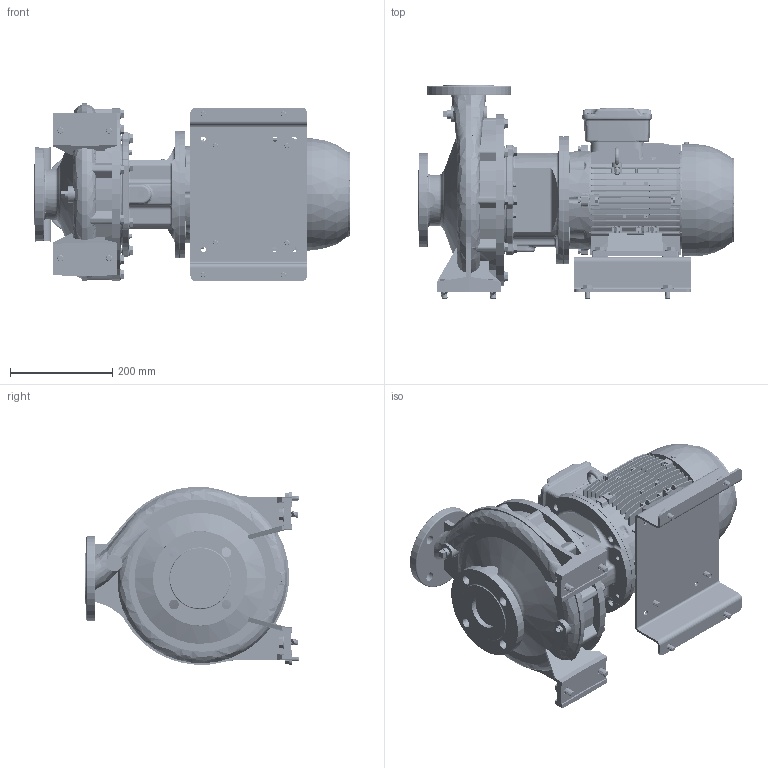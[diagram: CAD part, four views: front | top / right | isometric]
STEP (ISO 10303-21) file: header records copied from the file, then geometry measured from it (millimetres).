
FILE_DESCRIPTION (( 'STEP AP214' ), '1' );
FILE_NAME ('GSD4 50-250_4.0_(112M)_W21.STEP', '2026-06-18T06:22:18', ( '' ), ( '' ), 'SwSTEP 2.0', 'SolidWorks 2024', '' );
FILE_SCHEMA (( 'AUTOMOTIVE_DESIGN' ));
Length unit declared in the file: millimetre
Products named in the file (9): Parametric Flat Washer_M12; 112M ALIE3_W21T_B35; Parametric bolt_SFT-A299B; 50-250-100L_ﾃﾞﾌｫﾙﾄ; GSD4 50-250_4.0_(112M)_W21; Parametric bolt_SFT-A249B; 140_178 x 68 BP - 271472191; Parametric Flat Washer_M10; Parametric bolt_SFT-A253B
Assembly tree (27 placements, depth 2):
  GSD4 50-250_4.0_(112M)_W21
    50-250-100L_ﾃﾞﾌｫﾙﾄ
    112M ALIE3_W21T_B35
    140_178 x 68 BP - 271472191
    Parametric bolt_SFT-A299B  x4
    Parametric bolt_SFT-A249B  x4
    Parametric bolt_SFT-A253B  x4
    Parametric Flat Washer_M10  x8
    Parametric Flat Washer_M12  x4
Bounding box: 620.1 x 418 x 349.33 mm (x, y, z)
Volume: 23271464.9 mm3; surface area: 1897552.9 mm2
Topology: 37 solids, 40 shells, 5390 faces, 14319 edges, 9295 vertices
Faces by surface type: plane 2756, cylinder 1321, bspline 504, cone 423, torus 375, sphere 11
Entity records: 212178 total; most frequent: CARTESIAN_POINT 96103, ORIENTED_EDGE 26022, DIRECTION 21189, EDGE_CURVE 13011, VERTEX_POINT 8455, VECTOR 7201, LINE 7201, AXIS2_PLACEMENT_3D 6994
